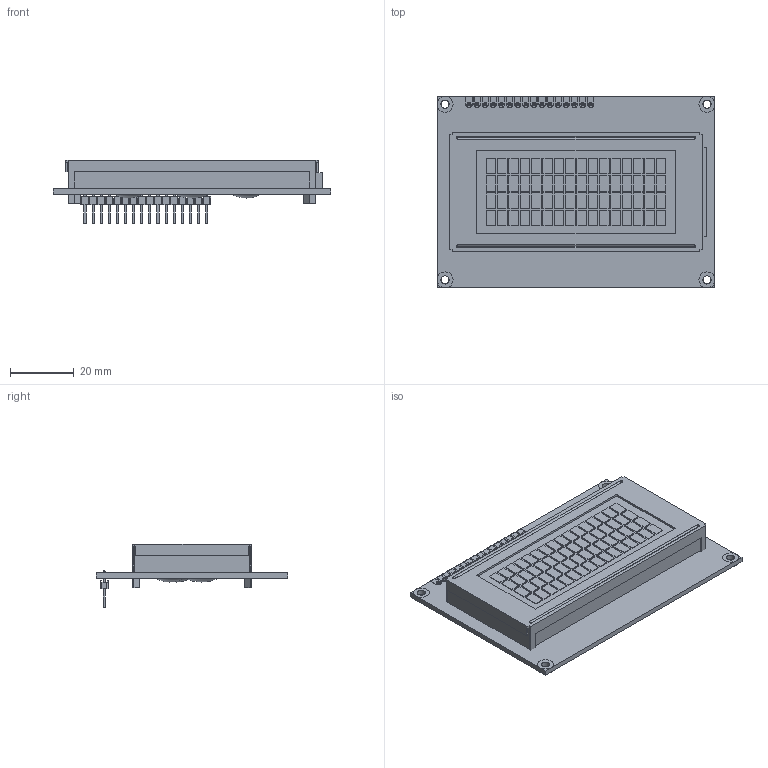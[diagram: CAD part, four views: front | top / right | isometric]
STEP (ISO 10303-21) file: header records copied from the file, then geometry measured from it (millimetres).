
FILE_DESCRIPTION(('FreeCAD Model'),'2;1');
FILE_NAME('Open CASCADE Shape Model','2023-04-18T16:17:57',('Author'),( ''),'Open CASCADE STEP processor 7.5','FreeCAD','Unknown');
FILE_SCHEMA(('AUTOMOTIVE_DESIGN { 1 0 10303 214 1 1 1 1 }'));
Length unit declared in the file: millimetre
Products named in the file (62): Part; PCB; PADS; Hole_Pad001; Hole_Pad002; Hole_Pad004; Hole_Pad003; PinPad_001; PinPad_002; PinPad_003; PinPad_004; PinPad_005; PinPad_006; PinPad_007; PinPad_008; PinPad_009; PinPad_010; PinPad_011; PinPad_012; PinPad_013; PinPad_014; PinPad_015; PinPad_016; CONNECTOR; Assem1; 6130xx11121_PIN; 61300211121; Assem002; 6130xx11121_PIN003; 6130xx11121_PIN002; 61300211121001; Assem003; 6130xx11121_PIN005; 6130xx11121_PIN004; 61300211121002; Assem004; 6130xx11121_PIN007; 6130xx11121_PIN006; 61300211121003; Assem005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
Assembly tree (62 placements, depth 5):
  Part
    PCB
    PADS
      Hole_Pad001
      Hole_Pad002
      Hole_Pad004
      Hole_Pad003
      PinPad_001
      PinPad_002
      PinPad_003
      PinPad_004
      PinPad_005
      PinPad_006
      PinPad_007
      PinPad_008
      PinPad_009
      PinPad_010
      PinPad_011
      PinPad_012
      PinPad_013
      PinPad_014
      PinPad_015
      PinPad_016
      CONNECTOR
        Assem1
          6130xx11121_PIN  x2
          61300211121
        Assem002
          6130xx11121_PIN003
          6130xx11121_PIN002
          61300211121001
        Assem003
          6130xx11121_PIN005
          6130xx11121_PIN004
          61300211121002
        Assem004
          6130xx11121_PIN007
          6130xx11121_PIN006
          61300211121003
        Assem005
          6130xx11121_PIN009
          6130xx11121_PIN008
          61300211121004
        Assem006
          6130xx11121_PIN011
          6130xx11121_PIN010
          61300211121005
        Assem007
          6130xx11121_PIN013
          6130xx11121_PIN012
          61300211121006
        Assem008
          6130xx11121_PIN015
          6130xx11121_PIN014
          61300211121007
    Chip001
    Screen_body
    Screen_material
    Screen
    Screen001
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Bounding box: 87 x 60.05 x 19.92 mm (x, y, z)
Volume: 33647.8 mm3; surface area: 32736.8 mm2
Topology: 52 solids, 52 shells, 1338 faces, 3135 edges, 1892 vertices
Faces by surface type: plane 995, cylinder 204, sphere 75, torus 64
Full cylindrical faces by diameter (mm): 1 x16, 1.05 x16, 2.5 x4, 2.6 x4, 5 x4
Entity records: 77836 total; most frequent: CARTESIAN_POINT 12803, DIRECTION 12306, LINE 8455, VECTOR 8455, ORIENTED_EDGE 6064, PCURVE 6064, DEFINITIONAL_REPRESENTATION 6064, EDGE_CURVE 3032
